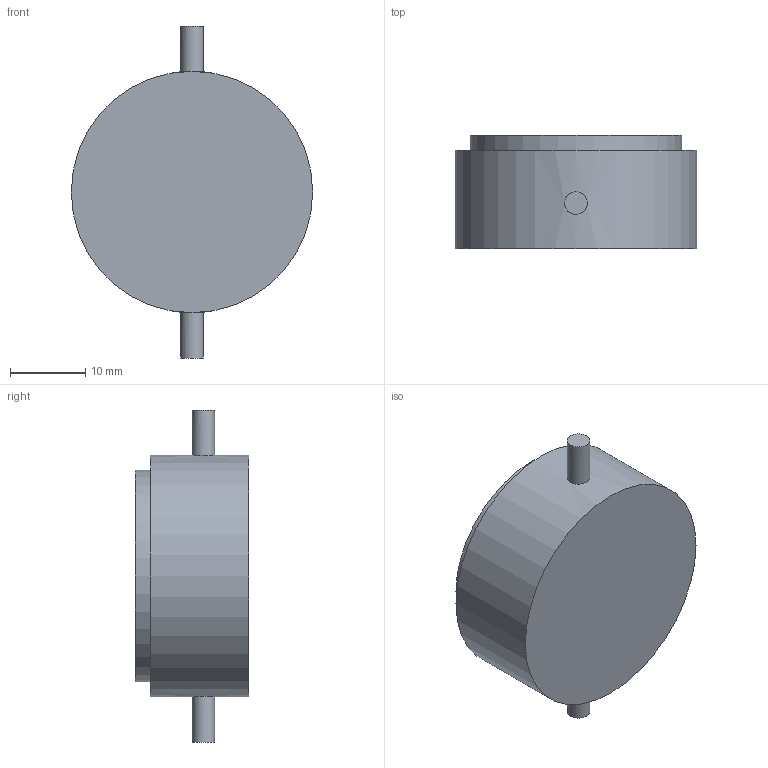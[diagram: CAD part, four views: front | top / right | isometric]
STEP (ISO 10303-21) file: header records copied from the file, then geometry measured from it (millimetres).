
FILE_DESCRIPTION(/* description */ ('Подставка зеркала'),/* implementation_level */ '2;1');
FILE_NAME(/* name */ 'D:\ \Работа\JuniorSkills\2018\ОтборочныйЗадание\Микроскоп\STEP\Подставка зеркала.stp',/* time_stamp */ '2017-11-09T06:44:55+07:00',/* author */ ('Andrey'),/* organization */ (''),/* preprocessor_version */ 'ST-DEVELOPER v15.6',/* originating_system */ 'Autodesk Inventor 2015',/* authorisation */ '');
FILE_SCHEMA (('AUTOMOTIVE_DESIGN { 1 0 10303 214 3 1 1 }'));
Length unit declared in the file: millimetre
Products named in the file (1): Подставка \X2\04370435
0440043A0430043B0430\X0\
Bounding box: 32 x 15 x 44 mm (x, y, z)
Volume: 11771.8 mm3; surface area: 3205.1 mm2
Topology: 1 solids, 1 shells, 9 faces, 14 edges, 10 vertices
Faces by surface type: plane 5, cylinder 4
Full cylindrical faces by diameter (mm): 3 x2, 28 x1, 32 x1
Entity records: 258 total; most frequent: CARTESIAN_POINT 92, DIRECTION 32, EDGE_LOOP 16, ORIENTED_EDGE 16, AXIS2_PLACEMENT_3D 16, FACE_OUTER_BOUND 9, ADVANCED_FACE 9, VERTEX_POINT 8
